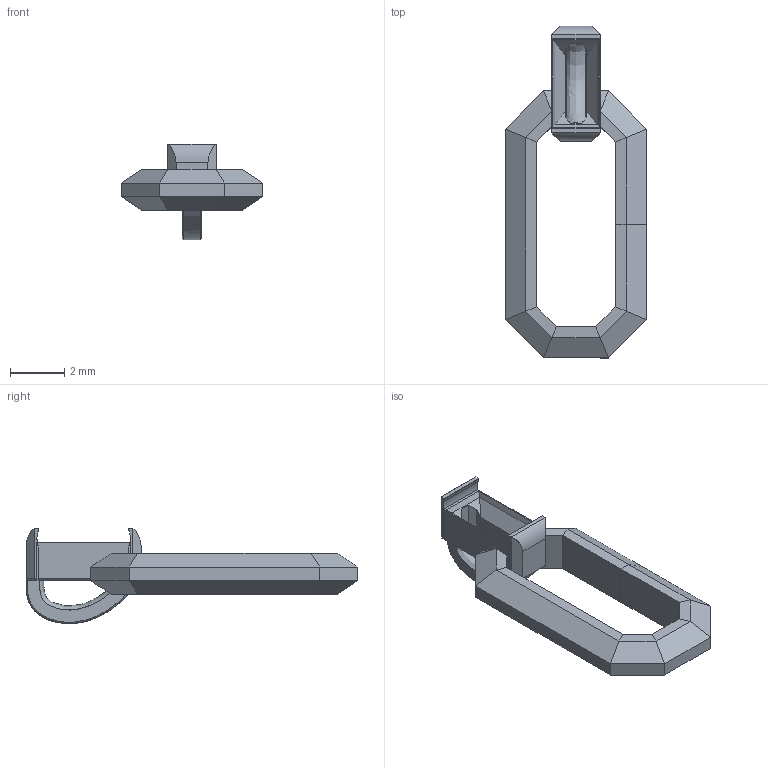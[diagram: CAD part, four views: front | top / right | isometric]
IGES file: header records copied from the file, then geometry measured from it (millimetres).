
Global section: file name: C:\Users\a\Desktop\; native system: Rhinoceros ( Aug 10 2015 ); preprocessor: Trout Lake IGES 012 Aug 10 2015; date: 210705.053701; units: millimetre
Bounding box: 5.2 x 12.2 x 3.51 mm (x, y, z)
Surface area: 141.5 mm2 (no closed solid volume)
Topology: 0 solids, 0 shells, 146 faces, 970 edges, 970 vertices
Faces by surface type: bspline 146
